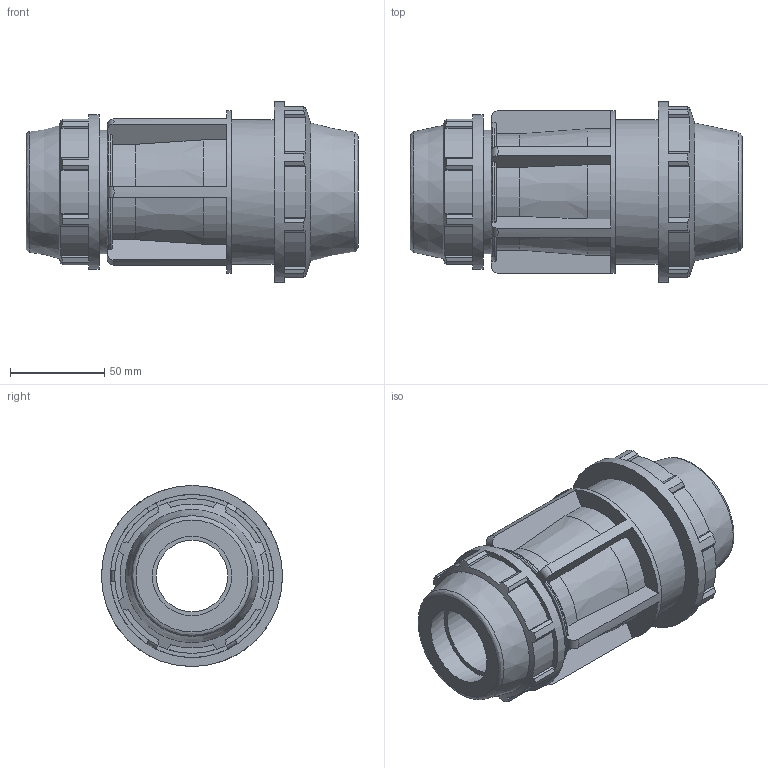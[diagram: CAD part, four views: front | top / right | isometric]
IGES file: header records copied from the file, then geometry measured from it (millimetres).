
Global section: file name: 0711M0015013.ipt; native system: Autodesk Inventor 2019; preprocessor: unknown; author: KIM; date: 20210826.124706; units: inch
Bounding box: 176 x 96.01 x 96.01 mm (x, y, z)
Volume: 464394.4 mm3; surface area: 91350.4 mm2
Topology: 1 solids, 1 shells, 189 faces, 553 edges, 374 vertices
Faces by surface type: plane 114, cylinder 45, revolution 20, cone 10
Full cylindrical faces by diameter (mm): 65.634 x1, 76.81 x1, 82.042 x1, 86.411 x1, 96.012 x1
